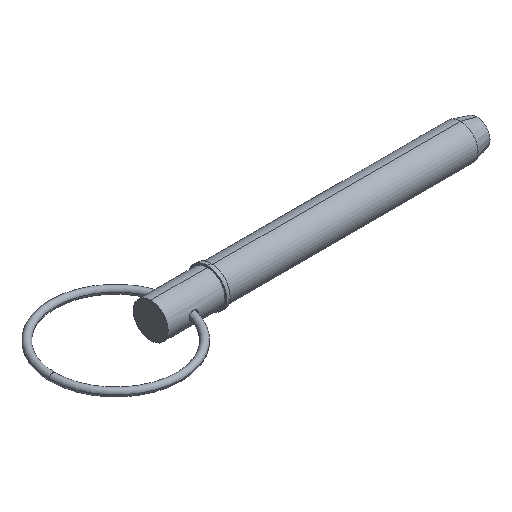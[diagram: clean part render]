
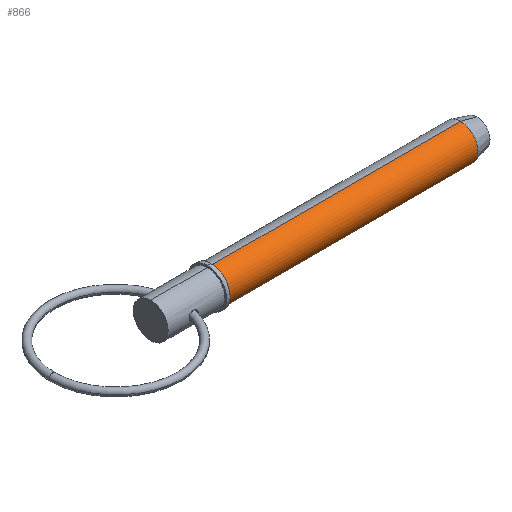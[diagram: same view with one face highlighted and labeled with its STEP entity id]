
A CAD part, isometric view. The second image highlights one B-rep face of the part: STEP entity #866.
In plain terms, the highlighted cylindrical face has radius 7.94 mm (diameter 15.88 mm), a partial arc.
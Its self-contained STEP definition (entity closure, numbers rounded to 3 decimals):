
#1 = VECTOR ( 'NONE', #489, 1000. ) ;
#32 = LINE ( 'NONE', #367, #729 ) ;
#44 = CARTESIAN_POINT ( 'NONE',  ( 0., 0., -7.94 ) ) ;
#61 = CARTESIAN_POINT ( 'NONE',  ( 27.31, 0., 0. ) ) ;
#102 = CARTESIAN_POINT ( 'NONE',  ( 140.552, 0., 7.94 ) ) ;
#114 = VERTEX_POINT ( 'NONE', #651 ) ;
#130 = CARTESIAN_POINT ( 'NONE',  ( 0., 0., 0. ) ) ;
#138 = DIRECTION ( 'NONE',  ( 1., 0., 0. ) ) ;
#146 = ORIENTED_EDGE ( 'NONE', *, *, #273, .F. ) ;
#185 = AXIS2_PLACEMENT_3D ( 'NONE', #130, #138, #316 ) ;
#196 = CIRCLE ( 'NONE', #932, 7.94 ) ;
#273 = EDGE_CURVE ( 'NONE', #742, #621, #32, .T. ) ;
#297 = ORIENTED_EDGE ( 'NONE', *, *, #766, .T. ) ;
#316 = DIRECTION ( 'NONE',  ( 0., 0., -1. ) ) ;
#352 = CIRCLE ( 'NONE', #912, 7.94 ) ;
#367 = CARTESIAN_POINT ( 'NONE',  ( 0., 0., 7.94 ) ) ;
#388 = EDGE_CURVE ( 'NONE', #1008, #114, #710, .T. ) ;
#437 = EDGE_LOOP ( 'NONE', ( #146, #297, #658, #870 ) ) ;
#465 = DIRECTION ( 'NONE',  ( 1., 0., 0. ) ) ;
#477 = DIRECTION ( 'NONE',  ( 0., 0., -1. ) ) ;
#489 = DIRECTION ( 'NONE',  ( 1., 0., 0. ) ) ;
#621 = VERTEX_POINT ( 'NONE', #102 ) ;
#651 = CARTESIAN_POINT ( 'NONE',  ( 140.552, 0., -7.94 ) ) ;
#654 = EDGE_CURVE ( 'NONE', #621, #114, #352, .T. ) ;
#658 = ORIENTED_EDGE ( 'NONE', *, *, #388, .T. ) ;
#710 = LINE ( 'NONE', #44, #1 ) ;
#729 = VECTOR ( 'NONE', #998, 1000. ) ;
#742 = VERTEX_POINT ( 'NONE', #788 ) ;
#766 = EDGE_CURVE ( 'NONE', #742, #1008, #196, .T. ) ;
#788 = CARTESIAN_POINT ( 'NONE',  ( 27.31, 0., 7.94 ) ) ;
#834 = DIRECTION ( 'NONE',  ( 1., 0., 0. ) ) ;
#860 = FACE_OUTER_BOUND ( 'NONE', #437, .T. ) ;
#866 = ADVANCED_FACE ( 'NONE', ( #860 ), #867, .T. ) ;
#867 = CYLINDRICAL_SURFACE ( 'NONE', #185, 7.94 ) ;
#870 = ORIENTED_EDGE ( 'NONE', *, *, #654, .F. ) ;
#912 = AXIS2_PLACEMENT_3D ( 'NONE', #1010, #834, #991 ) ;
#932 = AXIS2_PLACEMENT_3D ( 'NONE', #61, #465, #477 ) ;
#991 = DIRECTION ( 'NONE',  ( 0., 0., -1. ) ) ;
#998 = DIRECTION ( 'NONE',  ( 1., 0., 0. ) ) ;
#1008 = VERTEX_POINT ( 'NONE', #1024 ) ;
#1010 = CARTESIAN_POINT ( 'NONE',  ( 140.552, 0., 0. ) ) ;
#1024 = CARTESIAN_POINT ( 'NONE',  ( 27.31, 0., -7.94 ) ) ;
